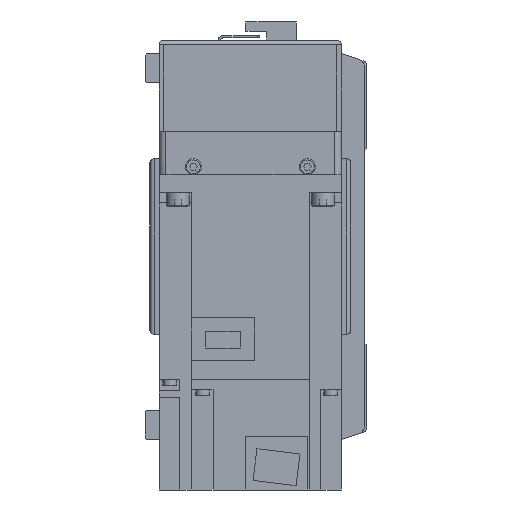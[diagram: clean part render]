
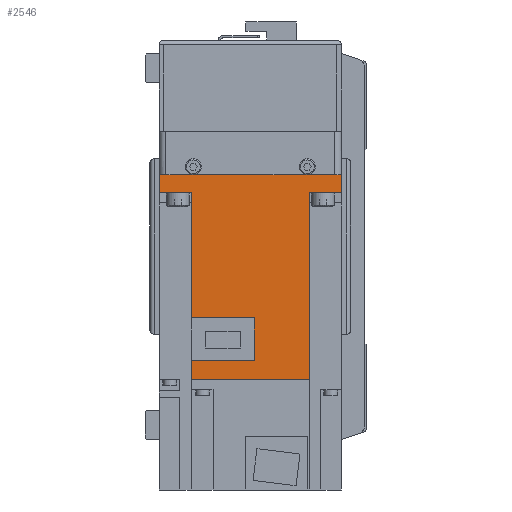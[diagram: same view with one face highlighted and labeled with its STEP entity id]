
A CAD part, left-side view. The second image highlights one B-rep face of the part: STEP entity #2546.
In plain terms, the highlighted planar face has unit normal (-1, 0, 0) as drawn and (1, 0, 0) by its records, which use the part's own axes.
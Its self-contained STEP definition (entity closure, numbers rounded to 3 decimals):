
#2546 = ADVANCED_FACE( '', ( #5368 ), #5369, .F. );
#5368 = FACE_OUTER_BOUND( '', #8428, .T. );
#5369 = PLANE( '', #8429 );
#8428 = EDGE_LOOP( '', ( #15678, #15679, #15680, #15681, #15682, #15683, #15684, #15685, #15686, #15687, #15688, #15689 ) );
#8429 = AXIS2_PLACEMENT_3D( '', #15690, #15691, #15692 );
#15678 = ORIENTED_EDGE( '', *, *, #20619, .F. );
#15679 = ORIENTED_EDGE( '', *, *, #17965, .F. );
#15680 = ORIENTED_EDGE( '', *, *, #20016, .F. );
#15681 = ORIENTED_EDGE( '', *, *, #20617, .T. );
#15682 = ORIENTED_EDGE( '', *, *, #18016, .F. );
#15683 = ORIENTED_EDGE( '', *, *, #20393, .T. );
#15684 = ORIENTED_EDGE( '', *, *, #18612, .T. );
#15685 = ORIENTED_EDGE( '', *, *, #20620, .F. );
#15686 = ORIENTED_EDGE( '', *, *, #19565, .F. );
#15687 = ORIENTED_EDGE( '', *, *, #17967, .F. );
#15688 = ORIENTED_EDGE( '', *, *, #18621, .F. );
#15689 = ORIENTED_EDGE( '', *, *, #18169, .F. );
#15690 = CARTESIAN_POINT( '', ( 40., 89.8, 40. ) );
#15691 = DIRECTION( '', ( -1., 0., 0. ) );
#15692 = DIRECTION( '', ( 0., 0., 1. ) );
#17965 = EDGE_CURVE( '', #21523, #21525, #21526, .T. );
#17967 = EDGE_CURVE( '', #21527, #21529, #21530, .T. );
#18016 = EDGE_CURVE( '', #21612, #21614, #21615, .T. );
#18169 = EDGE_CURVE( '', #21886, #21887, #21888, .T. );
#18612 = EDGE_CURVE( '', #22639, #22637, #22640, .T. );
#18621 = EDGE_CURVE( '', #21887, #21527, #22653, .T. );
#19565 = EDGE_CURVE( '', #21529, #24121, #24122, .T. );
#20016 = EDGE_CURVE( '', #24756, #21523, #24758, .T. );
#20393 = EDGE_CURVE( '', #21612, #22639, #25236, .T. );
#20617 = EDGE_CURVE( '', #24756, #21614, #25503, .T. );
#20619 = EDGE_CURVE( '', #21525, #21886, #25505, .T. );
#20620 = EDGE_CURVE( '', #24121, #22637, #25506, .T. );
#21523 = VERTEX_POINT( '', #26670 );
#21525 = VERTEX_POINT( '', #26673 );
#21526 = LINE( '', #26674, #26675 );
#21527 = VERTEX_POINT( '', #26676 );
#21529 = VERTEX_POINT( '', #26679 );
#21530 = LINE( '', #26680, #26681 );
#21612 = VERTEX_POINT( '', #26792 );
#21614 = VERTEX_POINT( '', #26795 );
#21615 = LINE( '', #26796, #26797 );
#21886 = VERTEX_POINT( '', #27171 );
#21887 = VERTEX_POINT( '', #27172 );
#21888 = LINE( '', #27173, #27174 );
#22637 = VERTEX_POINT( '', #28197 );
#22639 = VERTEX_POINT( '', #28200 );
#22640 = LINE( '', #28201, #28202 );
#22653 = LINE( '', #28218, #28219 );
#24121 = VERTEX_POINT( '', #30446 );
#24122 = LINE( '', #30447, #30448 );
#24756 = VERTEX_POINT( '', #31311 );
#24758 = LINE( '', #31314, #31315 );
#25236 = LINE( '', #32015, #32016 );
#25503 = LINE( '', #32368, #32369 );
#25505 = LINE( '', #32371, #32372 );
#25506 = LINE( '', #32373, #32374 );
#26670 = CARTESIAN_POINT( '', ( 40., 89.8, -25.95 ) );
#26673 = CARTESIAN_POINT( '', ( 40., 81.4, -25.95 ) );
#26674 = CARTESIAN_POINT( '', ( 40., 158., -25.95 ) );
#26675 = VECTOR( '', #33253, 1000. );
#26676 = CARTESIAN_POINT( '', ( 40., 62.8, -25.95 ) );
#26679 = CARTESIAN_POINT( '', ( 40., 8., -25.95 ) );
#26680 = CARTESIAN_POINT( '', ( 40., 158., -25.95 ) );
#26681 = VECTOR( '', #33255, 1000. );
#26792 = CARTESIAN_POINT( '', ( 40., 8., 40. ) );
#26795 = CARTESIAN_POINT( '', ( 40., 8., 25.95 ) );
#26796 = CARTESIAN_POINT( '', ( 40., 8., 40. ) );
#26797 = VECTOR( '', #33317, 1000. );
#27171 = CARTESIAN_POINT( '', ( 40., 81.4, 1.8 ) );
#27172 = CARTESIAN_POINT( '', ( 40., 62.8, 1.8 ) );
#27173 = CARTESIAN_POINT( '', ( 40., 81.4, 1.8 ) );
#27174 = VECTOR( '', #33492, 1000. );
#28197 = CARTESIAN_POINT( '', ( 40., 0., -40. ) );
#28200 = CARTESIAN_POINT( '', ( 40., 0., 40. ) );
#28201 = CARTESIAN_POINT( '', ( 40., 0., 40. ) );
#28202 = VECTOR( '', #34057, 1000. );
#28218 = CARTESIAN_POINT( '', ( 40., 62.8, 1.8 ) );
#28219 = VECTOR( '', #34070, 1000. );
#30446 = CARTESIAN_POINT( '', ( 40., 8., -40. ) );
#30447 = CARTESIAN_POINT( '', ( 40., 8., 40. ) );
#30448 = VECTOR( '', #35289, 1000. );
#31311 = CARTESIAN_POINT( '', ( 40., 89.8, 25.95 ) );
#31314 = CARTESIAN_POINT( '', ( 40., 89.8, 40. ) );
#31315 = VECTOR( '', #35803, 1000. );
#32015 = CARTESIAN_POINT( '', ( 40., 89.8, 40. ) );
#32016 = VECTOR( '', #36215, 1000. );
#32368 = CARTESIAN_POINT( '', ( 40., 158., 25.95 ) );
#32369 = VECTOR( '', #36409, 1000. );
#32371 = CARTESIAN_POINT( '', ( 40., 81.4, -26. ) );
#32372 = VECTOR( '', #36410, 1000. );
#32373 = CARTESIAN_POINT( '', ( 40., 89.8, -40. ) );
#32374 = VECTOR( '', #36411, 1000. );
#33253 = DIRECTION( '', ( 0., -1., 0. ) );
#33255 = DIRECTION( '', ( 0., -1., 0. ) );
#33317 = DIRECTION( '', ( 0., 0., -1. ) );
#33492 = DIRECTION( '', ( 0., -1., 0. ) );
#34057 = DIRECTION( '', ( 0., 0., -1. ) );
#34070 = DIRECTION( '', ( 0., 0., -1. ) );
#35289 = DIRECTION( '', ( 0., 0., -1. ) );
#35803 = DIRECTION( '', ( 0., 0., -1. ) );
#36215 = DIRECTION( '', ( 0., -1., 0. ) );
#36409 = DIRECTION( '', ( 0., -1., 0. ) );
#36410 = DIRECTION( '', ( 0., 0., 1. ) );
#36411 = DIRECTION( '', ( 0., -1., 0. ) );
